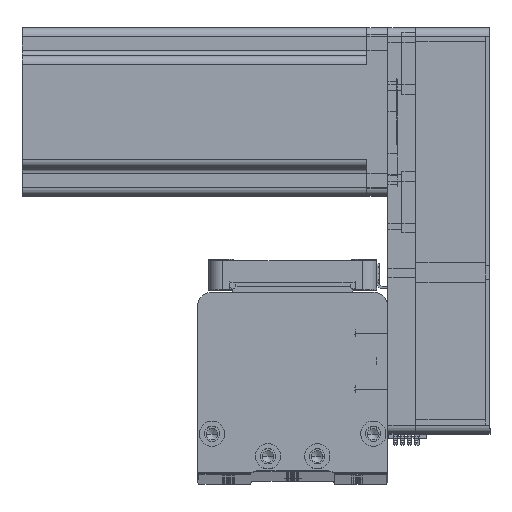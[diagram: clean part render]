
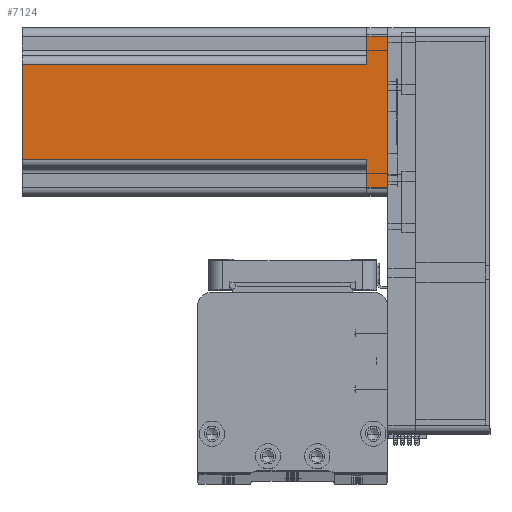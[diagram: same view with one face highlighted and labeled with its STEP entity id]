
A CAD part, top view. The second image highlights one B-rep face of the part: STEP entity #7124.
In plain terms, the highlighted planar face has unit normal (0, 0, 1) as drawn and (0, -1, 0) by its records, which use the part's own axes.
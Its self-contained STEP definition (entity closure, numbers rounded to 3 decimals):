
#26 = LINE ( 'NONE', #3228, #21716 ) ;
#189 = LINE ( 'NONE', #41755, #45059 ) ;
#258 = EDGE_CURVE ( 'NONE', #9441, #20035, #26, .T. ) ;
#1671 = CARTESIAN_POINT ( 'NONE',  ( 27., -30., 0. ) ) ;
#3091 = DIRECTION ( 'NONE',  ( 0., 0., -1. ) ) ;
#3228 = CARTESIAN_POINT ( 'NONE',  ( 30., -30., 0. ) ) ;
#6326 = VECTOR ( 'NONE', #51391, 1000. ) ;
#7124 = ADVANCED_FACE ( 'NONE', ( #45154 ), #32054, .F. ) ;
#9441 = VERTEX_POINT ( 'NONE', #49523 ) ;
#9554 = VECTOR ( 'NONE', #51910, 1000. ) ;
#9596 = LINE ( 'NONE', #11308, #44261 ) ;
#10905 = LINE ( 'NONE', #21408, #9554 ) ;
#11002 = VERTEX_POINT ( 'NONE', #40520 ) ;
#11308 = CARTESIAN_POINT ( 'NONE',  ( 17., -30., 130.7 ) ) ;
#11563 = CARTESIAN_POINT ( 'NONE',  ( -27., -30., 130.7 ) ) ;
#11631 = CARTESIAN_POINT ( 'NONE',  ( -17., -30., 130.7 ) ) ;
#12236 = EDGE_CURVE ( 'NONE', #16010, #46022, #20419, .T. ) ;
#12874 = VERTEX_POINT ( 'NONE', #38853 ) ;
#16010 = VERTEX_POINT ( 'NONE', #42724 ) ;
#17928 = AXIS2_PLACEMENT_3D ( 'NONE', #23489, #53944, #27903 ) ;
#20035 = VERTEX_POINT ( 'NONE', #1671 ) ;
#20411 = VERTEX_POINT ( 'NONE', #47419 ) ;
#20419 = LINE ( 'NONE', #25183, #43571 ) ;
#20715 = CARTESIAN_POINT ( 'NONE',  ( -20., -30., 7.5 ) ) ;
#21408 = CARTESIAN_POINT ( 'NONE',  ( 27., -30., 130.7 ) ) ;
#21716 = VECTOR ( 'NONE', #55505, 1000. ) ;
#23489 = CARTESIAN_POINT ( 'NONE',  ( 30., -30., 130.7 ) ) ;
#24473 = DIRECTION ( 'NONE',  ( 1., 0., 0. ) ) ;
#24686 = EDGE_CURVE ( 'NONE', #46022, #11002, #9596, .T. ) ;
#24830 = DIRECTION ( 'NONE',  ( 0., 0., -1. ) ) ;
#25013 = ORIENTED_EDGE ( 'NONE', *, *, #53281, .T. ) ;
#25183 = CARTESIAN_POINT ( 'NONE',  ( 20., -30., 7.5 ) ) ;
#26801 = VERTEX_POINT ( 'NONE', #54602 ) ;
#27903 = DIRECTION ( 'NONE',  ( -1., 0., 0. ) ) ;
#27929 = EDGE_CURVE ( 'NONE', #26801, #12874, #37859, .T. ) ;
#31816 = EDGE_CURVE ( 'NONE', #26801, #11002, #189, .T. ) ;
#32054 = PLANE ( 'NONE',  #17928 ) ;
#32649 = ORIENTED_EDGE ( 'NONE', *, *, #41957, .T. ) ;
#32958 = DIRECTION ( 'NONE',  ( 0., 0., 1. ) ) ;
#35363 = EDGE_CURVE ( 'NONE', #20411, #12874, #40968, .T. ) ;
#36506 = VECTOR ( 'NONE', #3091, 1000. ) ;
#37414 = VECTOR ( 'NONE', #24830, 1000. ) ;
#37859 = LINE ( 'NONE', #11631, #36506 ) ;
#38853 = CARTESIAN_POINT ( 'NONE',  ( -17., -30., 7.5 ) ) ;
#38933 = CARTESIAN_POINT ( 'NONE',  ( 17., -30., 7.5 ) ) ;
#40498 = ORIENTED_EDGE ( 'NONE', *, *, #27929, .T. ) ;
#40520 = CARTESIAN_POINT ( 'NONE',  ( 17., -30., 130.7 ) ) ;
#40968 = LINE ( 'NONE', #20715, #6326 ) ;
#41755 = CARTESIAN_POINT ( 'NONE',  ( 30., -30., 130.7 ) ) ;
#41957 = EDGE_CURVE ( 'NONE', #20411, #9441, #48974, .T. ) ;
#42272 = EDGE_LOOP ( 'NONE', ( #43716, #40498, #52561, #32649, #45465, #25013, #50966, #47839 ) ) ;
#42724 = CARTESIAN_POINT ( 'NONE',  ( 27., -30., 7.5 ) ) ;
#43571 = VECTOR ( 'NONE', #55656, 1000. ) ;
#43716 = ORIENTED_EDGE ( 'NONE', *, *, #31816, .F. ) ;
#44261 = VECTOR ( 'NONE', #32958, 1000. ) ;
#45059 = VECTOR ( 'NONE', #24473, 1000. ) ;
#45154 = FACE_OUTER_BOUND ( 'NONE', #42272, .T. ) ;
#45465 = ORIENTED_EDGE ( 'NONE', *, *, #258, .T. ) ;
#46022 = VERTEX_POINT ( 'NONE', #38933 ) ;
#47419 = CARTESIAN_POINT ( 'NONE',  ( -27., -30., 7.5 ) ) ;
#47839 = ORIENTED_EDGE ( 'NONE', *, *, #24686, .T. ) ;
#48974 = LINE ( 'NONE', #11563, #37414 ) ;
#49523 = CARTESIAN_POINT ( 'NONE',  ( -27., -30., 0. ) ) ;
#50966 = ORIENTED_EDGE ( 'NONE', *, *, #12236, .T. ) ;
#51391 = DIRECTION ( 'NONE',  ( 1., 0., 0. ) ) ;
#51910 = DIRECTION ( 'NONE',  ( 0., 0., 1. ) ) ;
#52561 = ORIENTED_EDGE ( 'NONE', *, *, #35363, .F. ) ;
#53281 = EDGE_CURVE ( 'NONE', #20035, #16010, #10905, .T. ) ;
#53944 = DIRECTION ( 'NONE',  ( 0., 1., 0. ) ) ;
#54602 = CARTESIAN_POINT ( 'NONE',  ( -17., -30., 130.7 ) ) ;
#55505 = DIRECTION ( 'NONE',  ( 1., 0., 0. ) ) ;
#55656 = DIRECTION ( 'NONE',  ( -1., 0., 0. ) ) ;
